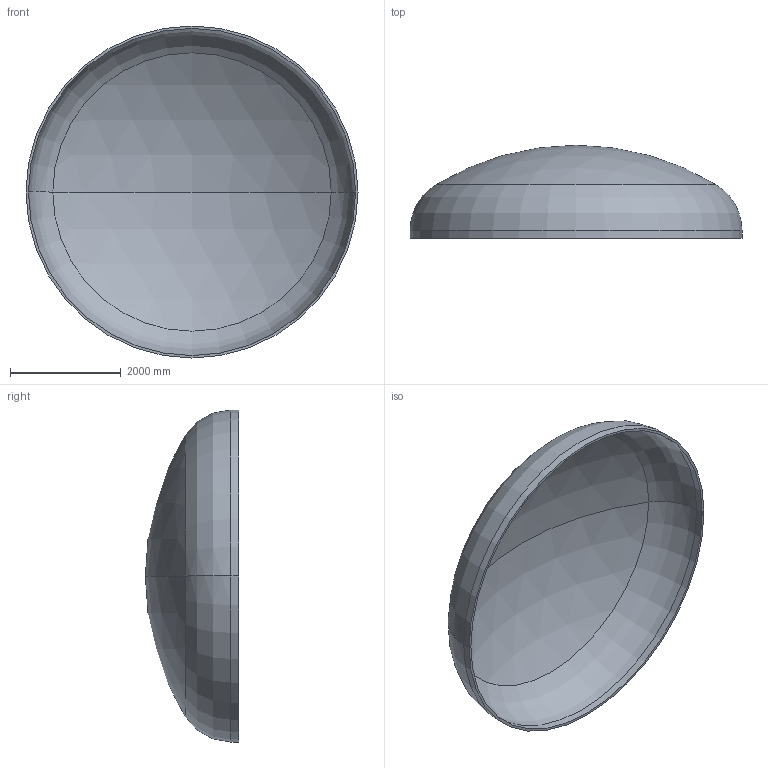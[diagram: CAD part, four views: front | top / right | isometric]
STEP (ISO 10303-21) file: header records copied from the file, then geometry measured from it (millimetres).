
FILE_DESCRIPTION (( 'STEP AP203' ), '1' );
FILE_NAME ('DIN 28013 Korbbogenform_-_Boden DIN 28013 - 6000 x 140 - I - s=44.step', '2016-07-04T10:37:07', ( '' ), ( '' ), 'SwSTEP 2.0', 'SolidWorks 2013', '' );
FILE_SCHEMA (( 'CONFIG_CONTROL_DESIGN' ));
Length unit declared in the file: millimetre
Products named in the file (1): DIN 28013 Korbbogenform_-_Boden DIN 28013 - 6000 x 140 - I - s=44
Bounding box: 6000 x 1683.9 x 6000 mm (x, y, z)
Volume: 1822033560.7 mm3; surface area: 83647028.8 mm2
Topology: 1 solids, 1 shells, 13 faces, 24 edges, 14 vertices
Faces by surface type: torus 4, cylinder 4, sphere 4, plane 1
Entity records: 407 total; most frequent: DIRECTION 72, CARTESIAN_POINT 52, ORIENTED_EDGE 48, AXIS2_PLACEMENT_3D 34, EDGE_CURVE 24, CIRCLE 20, EDGE_LOOP 14, VERTEX_POINT 14
